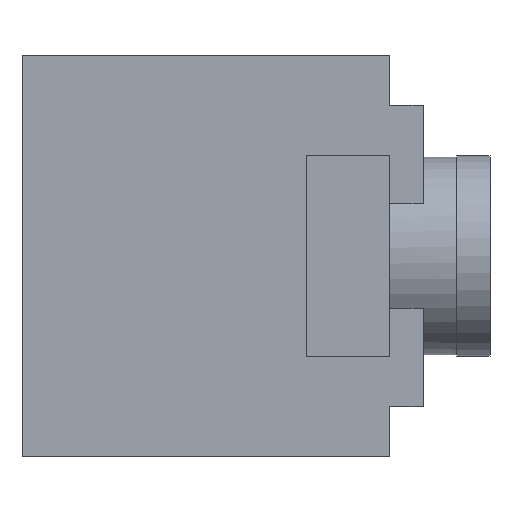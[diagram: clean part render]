
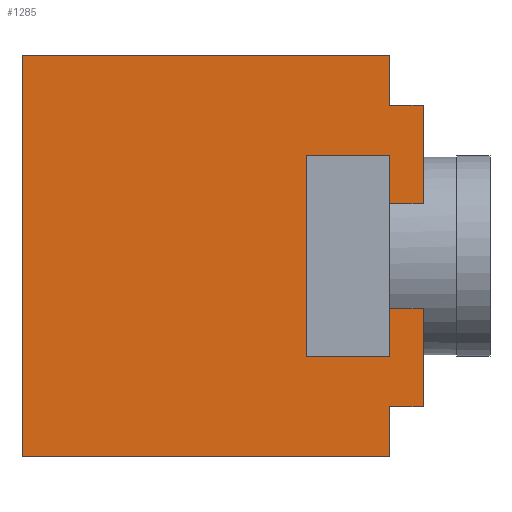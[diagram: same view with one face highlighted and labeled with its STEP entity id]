
A CAD part, top view. The second image highlights one B-rep face of the part: STEP entity #1285.
In plain terms, the highlighted planar face has unit normal (0, 0, 1).
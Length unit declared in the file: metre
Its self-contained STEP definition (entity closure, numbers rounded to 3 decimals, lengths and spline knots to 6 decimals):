
#103=ORIENTED_EDGE('',*,*,#454,.T.);
#104=ORIENTED_EDGE('',*,*,#455,.T.);
#105=ORIENTED_EDGE('',*,*,#456,.T.);
#106=ORIENTED_EDGE('',*,*,#457,.F.);
#107=ORIENTED_EDGE('',*,*,#458,.F.);
#108=ORIENTED_EDGE('',*,*,#459,.T.);
#109=ORIENTED_EDGE('',*,*,#460,.T.);
#110=ORIENTED_EDGE('',*,*,#461,.F.);
#111=ORIENTED_EDGE('',*,*,#462,.T.);
#112=ORIENTED_EDGE('',*,*,#463,.F.);
#113=ORIENTED_EDGE('',*,*,#464,.F.);
#114=ORIENTED_EDGE('',*,*,#465,.T.);
#115=ORIENTED_EDGE('',*,*,#466,.T.);
#116=ORIENTED_EDGE('',*,*,#467,.F.);
#117=ORIENTED_EDGE('',*,*,#468,.F.);
#118=ORIENTED_EDGE('',*,*,#469,.F.);
#454=EDGE_CURVE('',#629,#630,#752,.T.);
#455=EDGE_CURVE('',#630,#631,#753,.T.);
#456=EDGE_CURVE('',#631,#632,#754,.T.);
#457=EDGE_CURVE('',#633,#632,#755,.T.);
#458=EDGE_CURVE('',#634,#633,#756,.T.);
#459=EDGE_CURVE('',#634,#635,#757,.T.);
#460=EDGE_CURVE('',#635,#636,#758,.F.);
#461=EDGE_CURVE('',#637,#636,#759,.T.);
#462=EDGE_CURVE('',#637,#638,#760,.T.);
#463=EDGE_CURVE('',#639,#638,#761,.T.);
#464=EDGE_CURVE('',#640,#639,#762,.T.);
#465=EDGE_CURVE('',#640,#641,#763,.T.);
#466=EDGE_CURVE('',#641,#642,#764,.T.);
#467=EDGE_CURVE('',#643,#642,#765,.T.);
#468=EDGE_CURVE('',#644,#643,#766,.T.);
#469=EDGE_CURVE('',#629,#644,#767,.T.);
#629=VERTEX_POINT('',#2059);
#630=VERTEX_POINT('',#2060);
#631=VERTEX_POINT('',#2062);
#632=VERTEX_POINT('',#2064);
#633=VERTEX_POINT('',#2066);
#634=VERTEX_POINT('',#2068);
#635=VERTEX_POINT('',#2070);
#636=VERTEX_POINT('',#2072);
#637=VERTEX_POINT('',#2074);
#638=VERTEX_POINT('',#2076);
#639=VERTEX_POINT('',#2078);
#640=VERTEX_POINT('',#2080);
#641=VERTEX_POINT('',#2082);
#642=VERTEX_POINT('',#2084);
#643=VERTEX_POINT('',#2086);
#644=VERTEX_POINT('',#2088);
#752=LINE('',#2058,#894);
#753=LINE('',#2061,#895);
#754=LINE('',#2063,#896);
#755=LINE('',#2065,#897);
#756=LINE('',#2067,#898);
#757=LINE('',#2069,#899);
#758=LINE('',#2071,#900);
#759=LINE('',#2073,#901);
#760=LINE('',#2075,#902);
#761=LINE('',#2077,#903);
#762=LINE('',#2079,#904);
#763=LINE('',#2081,#905);
#764=LINE('',#2083,#906);
#765=LINE('',#2085,#907);
#766=LINE('',#2087,#908);
#767=LINE('',#2089,#909);
#894=VECTOR('',#1688,1.);
#895=VECTOR('',#1689,1.);
#896=VECTOR('',#1690,1.);
#897=VECTOR('',#1691,1.);
#898=VECTOR('',#1692,1.);
#899=VECTOR('',#1693,1.);
#900=VECTOR('',#1694,1.);
#901=VECTOR('',#1695,1.);
#902=VECTOR('',#1696,1.);
#903=VECTOR('',#1697,1.);
#904=VECTOR('',#1698,1.);
#905=VECTOR('',#1699,1.);
#906=VECTOR('',#1700,1.);
#907=VECTOR('',#1701,1.);
#908=VECTOR('',#1702,1.);
#909=VECTOR('',#1703,1.);
#1027=EDGE_LOOP('',(#103,#104,#105,#106,#107,#108,#109,#110,#111,#112,#113,
#114,#115,#116,#117,#118));
#1125=FACE_BOUND('',#1027,.T.);
#1223=PLANE('',#1561);
#1285=ADVANCED_FACE('',(#1125),#1223,.T.);
#1561=AXIS2_PLACEMENT_3D('',#2057,#1686,#1687);
#1686=DIRECTION('',(0.,0.,1.));
#1687=DIRECTION('',(1.,0.,0.));
#1688=DIRECTION('',(-1.,0.,0.));
#1689=DIRECTION('',(0.,-1.,0.));
#1690=DIRECTION('',(-1.,0.,0.));
#1691=DIRECTION('',(0.,-1.,0.));
#1692=DIRECTION('',(-1.,0.,0.));
#1693=DIRECTION('',(0.,-1.,0.));
#1694=DIRECTION('',(-1.,0.,0.));
#1695=DIRECTION('',(0.,-1.,0.));
#1696=DIRECTION('',(-1.,0.,0.));
#1697=DIRECTION('',(0.,-1.,0.));
#1698=DIRECTION('',(1.,0.,0.));
#1699=DIRECTION('',(0.,-1.,0.));
#1700=DIRECTION('',(1.,0.,0.));
#1701=DIRECTION('',(0.,-1.,0.));
#1702=DIRECTION('',(-1.,0.,0.));
#1703=DIRECTION('',(0.,-1.,0.));
#2057=CARTESIAN_POINT('',(0.,0.,0.005));
#2058=CARTESIAN_POINT('',(0.0085,-0.001566,0.005));
#2059=CARTESIAN_POINT('',(0.0065,-0.001566,0.005));
#2060=CARTESIAN_POINT('',(0.0055,-0.001566,0.005));
#2061=CARTESIAN_POINT('',(0.0055,0.,0.005));
#2062=CARTESIAN_POINT('',(0.0055,-0.003,0.005));
#2063=CARTESIAN_POINT('',(0.00425,-0.003,0.005));
#2064=CARTESIAN_POINT('',(0.003,-0.003,0.005));
#2065=CARTESIAN_POINT('',(0.003,0.,0.005));
#2066=CARTESIAN_POINT('',(0.003,0.003,0.005));
#2067=CARTESIAN_POINT('',(0.00425,0.003,0.005));
#2068=CARTESIAN_POINT('',(0.0055,0.003,0.005));
#2069=CARTESIAN_POINT('',(0.0055,0.,0.005));
#2070=CARTESIAN_POINT('',(0.0055,0.001566,0.005));
#2071=CARTESIAN_POINT('',(0.0085,0.001566,0.005));
#2072=CARTESIAN_POINT('',(0.0065,0.001566,0.005));
#2073=CARTESIAN_POINT('',(0.0065,0.,0.005));
#2074=CARTESIAN_POINT('',(0.0065,0.0045,0.005));
#2075=CARTESIAN_POINT('',(0.0065,0.0045,0.005));
#2076=CARTESIAN_POINT('',(0.0055,0.0045,0.005));
#2077=CARTESIAN_POINT('',(0.0055,0.,0.005));
#2078=CARTESIAN_POINT('',(0.0055,0.006,0.005));
#2079=CARTESIAN_POINT('',(0.,0.006,0.005));
#2080=CARTESIAN_POINT('',(-0.0055,0.006,0.005));
#2081=CARTESIAN_POINT('',(-0.0055,0.,0.005));
#2082=CARTESIAN_POINT('',(-0.0055,-0.006,0.005));
#2083=CARTESIAN_POINT('',(0.,-0.006,0.005));
#2084=CARTESIAN_POINT('',(0.0055,-0.006,0.005));
#2085=CARTESIAN_POINT('',(0.0055,0.,0.005));
#2086=CARTESIAN_POINT('',(0.0055,-0.0045,0.005));
#2087=CARTESIAN_POINT('',(0.0065,-0.0045,0.005));
#2088=CARTESIAN_POINT('',(0.0065,-0.0045,0.005));
#2089=CARTESIAN_POINT('',(0.0065,0.,0.005));
